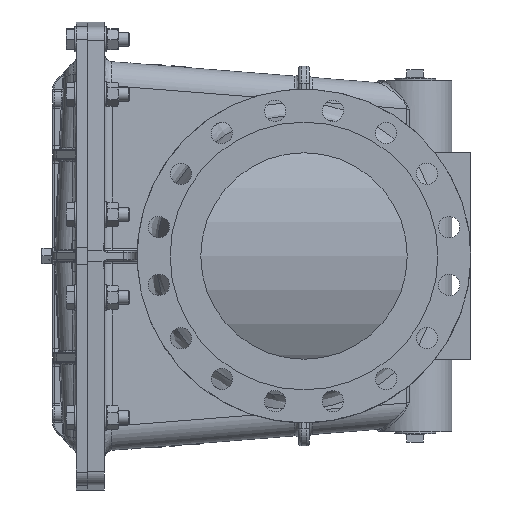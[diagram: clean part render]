
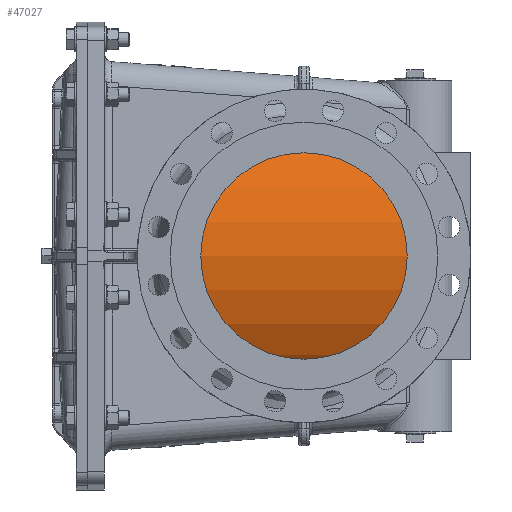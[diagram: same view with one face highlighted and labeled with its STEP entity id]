
A CAD part, left-side view. The second image highlights one B-rep face of the part: STEP entity #47027.
In plain terms, the highlighted cylindrical face has radius 289 mm (diameter 578 mm), a partial arc.
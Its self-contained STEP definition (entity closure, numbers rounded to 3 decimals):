
#2876=LINE('',#97450,#6287);
#2877=LINE('',#97452,#6288);
#6287=VECTOR('',#61126,10.);
#6288=VECTOR('',#61129,10.);
#9816=CYLINDRICAL_SURFACE('',#51289,289.);
#11963=FACE_OUTER_BOUND('',#15023,.T.);
#15023=EDGE_LOOP('',(#40296,#40297,#40298,#40299));
#18702=CIRCLE('',#51283,289.);
#18703=CIRCLE('',#51286,289.);
#22193=VERTEX_POINT('',#97420);
#22197=VERTEX_POINT('',#97429);
#22200=VERTEX_POINT('',#97439);
#22201=VERTEX_POINT('',#97441);
#28415=EDGE_CURVE('',#22193,#22197,#18702,.T.);
#28420=EDGE_CURVE('',#22201,#22200,#18703,.T.);
#28425=EDGE_CURVE('',#22197,#22201,#2876,.T.);
#28426=EDGE_CURVE('',#22193,#22200,#2877,.T.);
#40296=ORIENTED_EDGE('',*,*,#28415,.T.);
#40297=ORIENTED_EDGE('',*,*,#28425,.T.);
#40298=ORIENTED_EDGE('',*,*,#28420,.T.);
#40299=ORIENTED_EDGE('',*,*,#28426,.F.);
#47027=ADVANCED_FACE('',(#11963),#9816,.T.);
#51283=AXIS2_PLACEMENT_3D('',#97431,#61107,#61108);
#51286=AXIS2_PLACEMENT_3D('',#97442,#61117,#61118);
#51289=AXIS2_PLACEMENT_3D('',#97451,#61127,#61128);
#61107=DIRECTION('center_axis',(0.,0.,
1.));
#61108=DIRECTION('ref_axis',(0.64,0.768,0.));
#61117=DIRECTION('center_axis',(0.,0.,-1.));
#61118=DIRECTION('ref_axis',(0.64,0.768,0.));
#61126=DIRECTION('',(0.,0.,1.));
#61127=DIRECTION('center_axis',(0.,0.,1.));
#61128=DIRECTION('ref_axis',(0.64,0.768,0.));
#61129=DIRECTION('',(0.,0.,1.));
#97420=CARTESIAN_POINT('',(185.032,3.,12.));
#97429=CARTESIAN_POINT('',(-185.032,3.,12.));
#97431=CARTESIAN_POINT('Origin',(0.,-219.,12.));
#97439=CARTESIAN_POINT('',(185.032,3.,510.));
#97441=CARTESIAN_POINT('',(-185.032,3.,510.));
#97442=CARTESIAN_POINT('Origin',(0.,-219.,510.));
#97450=CARTESIAN_POINT('',(-185.032,3.,0.));
#97451=CARTESIAN_POINT('Origin',(0.,-219.,0.));
#97452=CARTESIAN_POINT('',(185.032,3.,0.));
